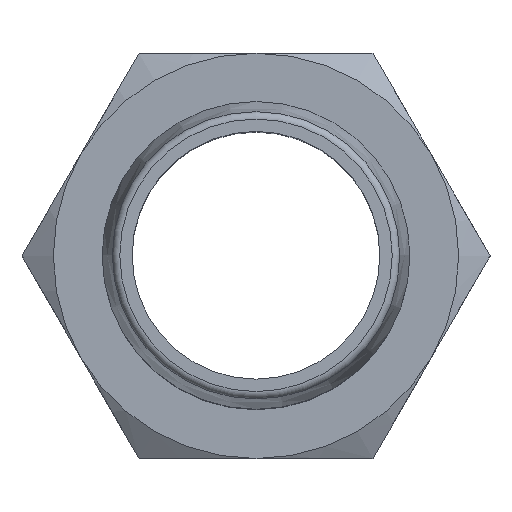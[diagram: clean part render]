
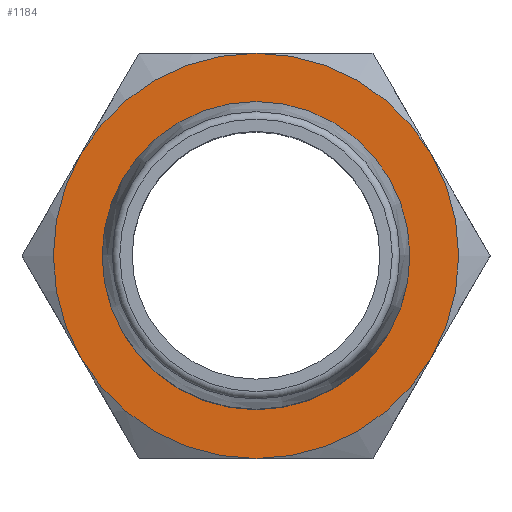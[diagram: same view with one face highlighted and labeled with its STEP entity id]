
A CAD part, top view. The second image highlights one B-rep face of the part: STEP entity #1184.
In plain terms, the highlighted planar face has unit normal (0, 0, 1) as drawn and (0, 1, 0) by its records, which use the part's own axes.
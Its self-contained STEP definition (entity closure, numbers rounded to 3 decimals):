
#549=PLANE('',#1100);
#602=ORIENTED_EDGE('',*,*,#764,.T.);
#603=ORIENTED_EDGE('',*,*,#766,.T.);
#604=ORIENTED_EDGE('',*,*,#767,.T.);
#605=ORIENTED_EDGE('',*,*,#768,.T.);
#606=ORIENTED_EDGE('',*,*,#769,.T.);
#607=ORIENTED_EDGE('',*,*,#770,.T.);
#608=ORIENTED_EDGE('',*,*,#771,.F.);
#688=CIRCLE('',#1098,13.5);
#689=CIRCLE('',#1101,13.5);
#690=CIRCLE('',#1102,13.5);
#691=CIRCLE('',#1103,13.5);
#692=CIRCLE('',#1104,13.5);
#693=CIRCLE('',#1105,13.5);
#694=CIRCLE('',#1106,10.25);
#721=VERTEX_POINT('',#1238);
#724=VERTEX_POINT('',#1246);
#725=VERTEX_POINT('',#1250);
#726=VERTEX_POINT('',#1252);
#727=VERTEX_POINT('',#1254);
#728=VERTEX_POINT('',#1256);
#729=VERTEX_POINT('',#1259);
#764=EDGE_CURVE('',#724,#721,#688,.T.);
#766=EDGE_CURVE('',#721,#725,#689,.T.);
#767=EDGE_CURVE('',#725,#726,#690,.T.);
#768=EDGE_CURVE('',#726,#727,#691,.T.);
#769=EDGE_CURVE('',#727,#728,#692,.T.);
#770=EDGE_CURVE('',#728,#724,#693,.T.);
#771=EDGE_CURVE('',#729,#729,#694,.T.);
#810=EDGE_LOOP('',(#602,#603,#604,#605,#606,#607));
#811=EDGE_LOOP('',(#608));
#866=FACE_BOUND('',#810,.T.);
#867=FACE_BOUND('',#811,.T.);
#948=DIRECTION('',(0.,1.,0.));
#949=DIRECTION('',(0.,0.,13.5));
#952=DIRECTION('',(0.,1.,0.));
#953=DIRECTION('',(1.,0.,0.));
#954=DIRECTION('',(0.,1.,0.));
#955=DIRECTION('',(11.691,0.,6.75));
#956=DIRECTION('',(0.,1.,0.));
#957=DIRECTION('',(11.691,0.,-6.75));
#958=DIRECTION('',(0.,1.,0.));
#959=DIRECTION('',(0.,0.,-13.5));
#960=DIRECTION('',(0.,1.,0.));
#961=DIRECTION('',(-11.691,0.,-6.75));
#962=DIRECTION('',(0.,1.,0.));
#963=DIRECTION('',(-11.691,0.,6.75));
#964=DIRECTION('',(0.,1.,0.));
#965=DIRECTION('',(10.25,0.,0.));
#1098=AXIS2_PLACEMENT_3D('',#1247,#948,#949);
#1100=AXIS2_PLACEMENT_3D('',#1249,#952,#953);
#1101=AXIS2_PLACEMENT_3D('',#1251,#954,#955);
#1102=AXIS2_PLACEMENT_3D('',#1253,#956,#957);
#1103=AXIS2_PLACEMENT_3D('',#1255,#958,#959);
#1104=AXIS2_PLACEMENT_3D('',#1257,#960,#961);
#1105=AXIS2_PLACEMENT_3D('',#1258,#962,#963);
#1106=AXIS2_PLACEMENT_3D('',#1260,#964,#965);
#1184=ADVANCED_FACE('',(#866,#867),#549,.T.);
#1238=CARTESIAN_POINT('',(36.02,37.461,6.75));
#1246=CARTESIAN_POINT('',(24.328,37.461,13.5));
#1247=CARTESIAN_POINT('',(24.328,37.461,0.));
#1249=CARTESIAN_POINT('',(37.828,37.461,0.));
#1250=CARTESIAN_POINT('',(36.02,37.461,-6.75));
#1251=CARTESIAN_POINT('',(24.328,37.461,0.));
#1252=CARTESIAN_POINT('',(24.328,37.461,-13.5));
#1253=CARTESIAN_POINT('',(24.328,37.461,0.));
#1254=CARTESIAN_POINT('',(12.637,37.461,-6.75));
#1255=CARTESIAN_POINT('',(24.328,37.461,0.));
#1256=CARTESIAN_POINT('',(12.637,37.461,6.75));
#1257=CARTESIAN_POINT('',(24.328,37.461,0.));
#1258=CARTESIAN_POINT('',(24.328,37.461,0.));
#1259=CARTESIAN_POINT('',(34.578,37.461,0.));
#1260=CARTESIAN_POINT('',(24.328,37.461,0.));
